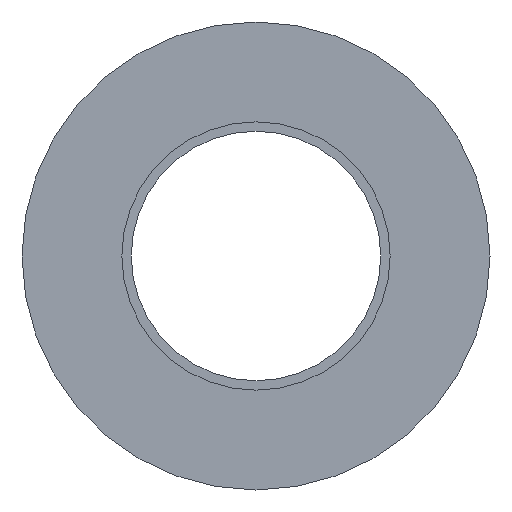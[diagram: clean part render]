
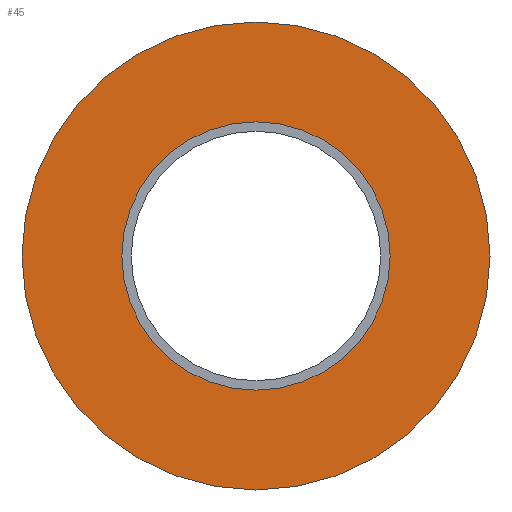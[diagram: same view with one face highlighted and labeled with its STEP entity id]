
A CAD part, left-side view. The second image highlights one B-rep face of the part: STEP entity #45.
In plain terms, the highlighted planar face has unit normal (-1, 0, 0).
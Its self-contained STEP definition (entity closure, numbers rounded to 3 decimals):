
#45=ADVANCED_FACE('',(#62,#63),#53,.T.);
#53=PLANE('',#155);
#62=FACE_BOUND('',#82,.T.);
#63=FACE_BOUND('',#83,.T.);
#82=EDGE_LOOP('',(#102));
#83=EDGE_LOOP('',(#103));
#102=ORIENTED_EDGE('',*,*,#129,.T.);
#103=ORIENTED_EDGE('',*,*,#128,.F.);
#118=VERTEX_POINT('',#220);
#119=VERTEX_POINT('',#223);
#128=EDGE_CURVE('',#118,#118,#138,.T.);
#129=EDGE_CURVE('',#119,#119,#139,.T.);
#138=CIRCLE('',#152,8.6);
#139=CIRCLE('',#154,15.);
#152=AXIS2_PLACEMENT_3D('',#219,#181,#182);
#154=AXIS2_PLACEMENT_3D('',#222,#185,#186);
#155=AXIS2_PLACEMENT_3D('',#224,#187,#188);
#181=DIRECTION('',(-1.,0.,0.));
#182=DIRECTION('',(0.,0.,1.));
#185=DIRECTION('',(-1.,0.,0.));
#186=DIRECTION('',(0.,0.,1.));
#187=DIRECTION('',(-1.,0.,0.));
#188=DIRECTION('',(0.,0.,1.));
#219=CARTESIAN_POINT('',(0.,0.,0.));
#220=CARTESIAN_POINT('',(0.,0.,8.6));
#222=CARTESIAN_POINT('',(0.,0.,0.));
#223=CARTESIAN_POINT('',(0.,0.,15.));
#224=CARTESIAN_POINT('',(0.,8.6,0.));
